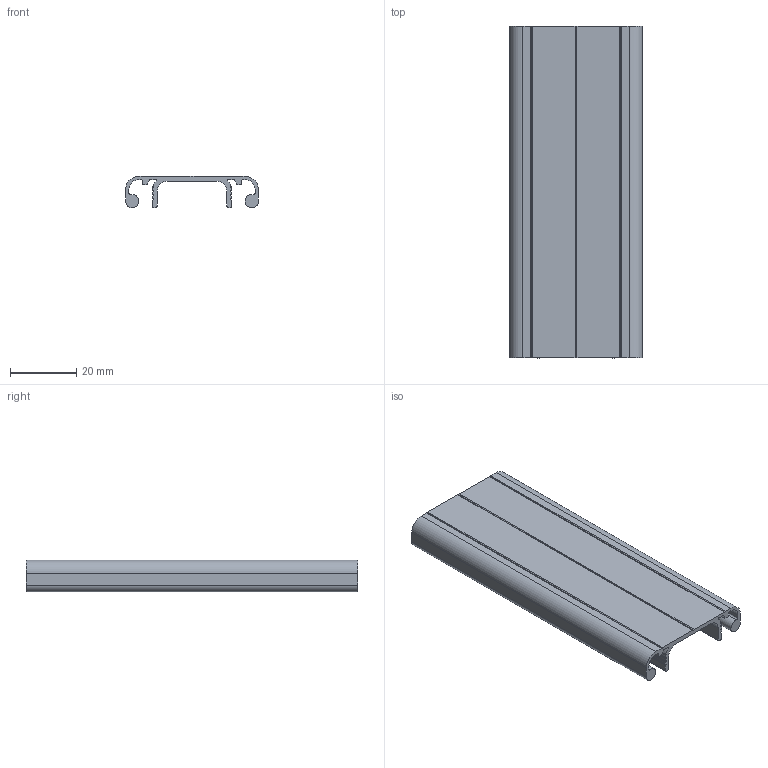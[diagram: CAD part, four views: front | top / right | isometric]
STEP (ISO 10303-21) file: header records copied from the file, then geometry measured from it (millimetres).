
FILE_DESCRIPTION(('STEP AP214'),'1');
FILE_NAME('cctmp_71B71B6F-205D-4A21-9950-13F5E4A16F04_2019_9_6_11_39_22_953..stp','2019-09-06T09:39:23',('item Industrietechnik GmbH'),('CADClick - www.CADClick.com'),'Spatial InterOp 3D',' ','unknown authorization');
FILE_SCHEMA(('AUTOMOTIVE_DESIGN'));
Length unit declared in the file: millimetre
Products named in the file (1): item_7000146_Lid Profile D40 E, natural_L=100
Bounding box: 40 x 100 x 9.5 mm (x, y, z)
Volume: 11340 mm3; surface area: 15892.3 mm2
Topology: 1 solids, 1 shells, 91 faces, 267 edges, 178 vertices
Faces by surface type: plane 51, cylinder 40
Entity records: 3793 total; most frequent: CARTESIAN_POINT 537, ORIENTED_EDGE 534, DIRECTION 531, EDGE_CURVE 267, LINE 187, VECTOR 187, VERTEX_POINT 178, AXIS2_PLACEMENT_3D 172
